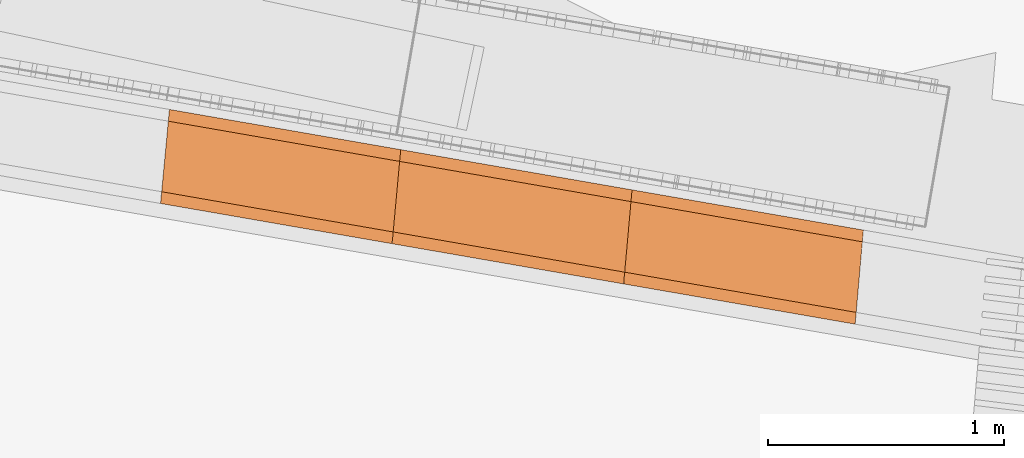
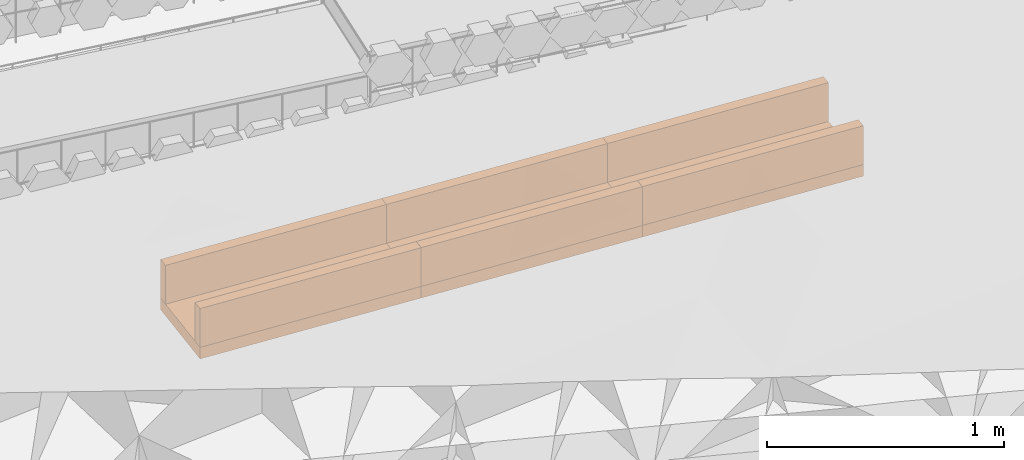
# Not in any storey, part 43 of 46: 9 proxies.
"""IFC4 model written with IfcOpenShell, lengths in metres."""

from ifc_helpers import new_model, si_unit, direction, frame, origin_with_axes, place, context, subcontext, project, spatial, polygons, material, element, save


model = new_model("IFC4")

# Units and contexts
model_context = context("Model", 3, precision=1e-05, world=origin_with_axes(), true_north=direction((0.0, 1.0)))
body_context = subcontext(model_context, "Body", "Model", "MODEL_VIEW")
ifc_project = project(units=[si_unit("VOLUMEUNIT", "CUBIC_METRE"), si_unit("LENGTHUNIT", "METRE"), si_unit("AREAUNIT", "SQUARE_METRE")], contexts=[model_context])

# Site
site_placement = place(None, origin_with_axes())
site = spatial("IfcSite", under=ifc_project, at=site_placement, Name="Lares · Rua das Mercês · artigo 4771")

# Proxies
ifc_material = material(Name="Caleiras · betão", Category="concrete")
proxy_1_placement = place(site_placement, frame((0.0, 0.0, 0.0), z_axis=(0.0, 0.0, 1.0), x_axis=(1.0, -1.03767253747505e-17, 0.0)))
element("IfcBuildingElementProxy", 1, at=proxy_1_placement, inside=site, material=ifc_material, Name="Acesso · canal lateral", ObjectType="Acesso · canal lateral", PredefinedType="USERDEFINED", context=body_context, shape_type="Tessellation", body=[
    polygons([(79.2974734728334, 6.31582085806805, 15.5703670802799), (79.3349189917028, 6.71406429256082, 15.5703670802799), (80.3149523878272, 6.5437610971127, 15.6448251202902), (80.2775068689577, 6.14551766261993, 15.6448251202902), (79.2974734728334, 6.31582085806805, 15.6303670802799), (79.3349189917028, 6.71406429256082, 15.6303670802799), (80.3149523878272, 6.5437610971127, 15.7048251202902), (80.2775068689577, 6.14551766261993, 15.7048251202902)], [[[4, 3, 2, 1]], [[5, 6, 7, 8]], [[1, 2, 6, 5]], [[2, 3, 7, 6]], [[3, 4, 8, 7]], [[4, 1, 5, 8]]]),
])
proxy_2_placement = place(site_placement, frame((0.0, 0.0, 0.0), z_axis=(0.0, 0.0, 1.0), x_axis=(1.0, -1.03767253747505e-17, 0.0)))
element("IfcBuildingElementProxy", 2, at=proxy_2_placement, inside=site, material=ifc_material, Name="Acesso · canal lateral", ObjectType="Acesso · canal lateral", PredefinedType="USERDEFINED", context=body_context, shape_type="Tessellation", body=[
    polygons([(79.2974734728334, 6.31582085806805, 15.6303670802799), (79.3021541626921, 6.36560128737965, 15.6303670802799), (80.2821875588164, 6.19529809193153, 15.7048251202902), (80.2775068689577, 6.14551766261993, 15.7048251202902), (79.2974734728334, 6.31582085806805, 15.8303670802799), (79.3021541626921, 6.36560128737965, 15.8303670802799), (80.2821875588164, 6.19529809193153, 15.9048251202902), (80.2775068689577, 6.14551766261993, 15.9048251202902)], [[[4, 3, 2, 1]], [[5, 6, 7, 8]], [[1, 2, 6, 5]], [[2, 3, 7, 6]], [[3, 4, 8, 7]], [[4, 1, 5, 8]]]),
])
proxy_3_placement = place(site_placement, frame((0.0, 0.0, 0.0), z_axis=(0.0, 0.0, 1.0), x_axis=(1.0, -1.03767253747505e-17, 0.0)))
element("IfcBuildingElementProxy", 3, at=proxy_3_placement, inside=site, material=ifc_material, Name="Acesso · canal lateral", ObjectType="Acesso · canal lateral", PredefinedType="USERDEFINED", context=body_context, shape_type="Tessellation", body=[
    polygons([(79.3302383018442, 6.66428386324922, 15.6303670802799), (79.3349189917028, 6.71406429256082, 15.6303670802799), (80.3149523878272, 6.5437610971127, 15.7048251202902), (80.3102716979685, 6.49398066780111, 15.7048251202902), (79.3302383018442, 6.66428386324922, 15.8303670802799), (79.3349189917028, 6.71406429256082, 15.8303670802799), (80.3149523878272, 6.5437610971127, 15.9048251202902), (80.3102716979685, 6.49398066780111, 15.9048251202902)], [[[4, 3, 2, 1]], [[5, 6, 7, 8]], [[1, 2, 6, 5]], [[2, 3, 7, 6]], [[3, 4, 8, 7]], [[4, 1, 5, 8]]]),
])
proxy_4_placement = place(site_placement, frame((0.0, 0.0, 0.0), z_axis=(0.0, 0.0, 1.0), x_axis=(1.0, -1.03767253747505e-17, 0.0)))
element("IfcBuildingElementProxy", 4, at=proxy_4_placement, inside=site, material=ifc_material, Name="Acesso · canal lateral", ObjectType="Acesso · canal lateral", PredefinedType="USERDEFINED", context=body_context, shape_type="Tessellation", body=[
    polygons([(80.2780501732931, 6.14546732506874, 15.6448251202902), (80.3144090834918, 6.5438114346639, 15.6448251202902), (81.2944163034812, 6.37350871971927, 15.7192831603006), (81.2580573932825, 5.97516461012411, 15.7192831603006), (80.2780501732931, 6.14546732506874, 15.7048251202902), (80.3144090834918, 6.5438114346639, 15.7048251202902), (81.2944163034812, 6.37350871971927, 15.7792831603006), (81.2580573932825, 5.97516461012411, 15.7792831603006)], [[[4, 3, 2, 1]], [[5, 6, 7, 8]], [[1, 2, 6, 5]], [[2, 3, 7, 6]], [[3, 4, 8, 7]], [[4, 1, 5, 8]]]),
])
proxy_5_placement = place(site_placement, frame((0.0, 0.0, 0.0), z_axis=(0.0, 0.0, 1.0), x_axis=(1.0, -1.03767253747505e-17, 0.0)))
element("IfcBuildingElementProxy", 5, at=proxy_5_placement, inside=site, material=ifc_material, Name="Acesso · canal lateral", ObjectType="Acesso · canal lateral", PredefinedType="USERDEFINED", context=body_context, shape_type="Tessellation", body=[
    polygons([(80.2780501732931, 6.14546732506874, 15.7048251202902), (80.2825950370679, 6.19526033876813, 15.7048251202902), (81.2626022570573, 6.0249576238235, 15.7792831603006), (81.2580573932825, 5.97516461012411, 15.7792831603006), (80.2780501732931, 6.14546732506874, 15.9048251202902), (80.2825950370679, 6.19526033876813, 15.9048251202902), (81.2626022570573, 6.0249576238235, 15.9792831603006), (81.2580573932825, 5.97516461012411, 15.9792831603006)], [[[4, 3, 2, 1]], [[5, 6, 7, 8]], [[1, 2, 6, 5]], [[2, 3, 7, 6]], [[3, 4, 8, 7]], [[4, 1, 5, 8]]]),
])
proxy_6_placement = place(site_placement, frame((0.0, 0.0, 0.0), z_axis=(0.0, 0.0, 1.0), x_axis=(1.0, -1.03767253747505e-17, 0.0)))
element("IfcBuildingElementProxy", 6, at=proxy_6_placement, inside=site, material=ifc_material, Name="Acesso · canal lateral", ObjectType="Acesso · canal lateral", PredefinedType="USERDEFINED", context=body_context, shape_type="Tessellation", body=[
    polygons([(80.309864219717, 6.4940184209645, 15.7048251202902), (80.3144090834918, 6.5438114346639, 15.7048251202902), (81.2944163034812, 6.37350871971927, 15.7792831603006), (81.2898714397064, 6.32371570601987, 15.7792831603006), (80.309864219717, 6.4940184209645, 15.9048251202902), (80.3144090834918, 6.5438114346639, 15.9048251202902), (81.2944163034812, 6.37350871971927, 15.9792831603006), (81.2898714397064, 6.32371570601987, 15.9792831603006)], [[[4, 3, 2, 1]], [[5, 6, 7, 8]], [[1, 2, 6, 5]], [[2, 3, 7, 6]], [[3, 4, 8, 7]], [[4, 1, 5, 8]]]),
])
proxy_7_placement = place(site_placement, frame((0.0, 0.0, 0.0), z_axis=(0.0, 0.0, 1.0), x_axis=(1.0, -1.03767253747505e-17, 0.0)))
element("IfcBuildingElementProxy", 7, at=proxy_7_placement, inside=site, material=ifc_material, Name="Acesso · canal lateral", ObjectType="Acesso · canal lateral", PredefinedType="USERDEFINED", context=body_context, shape_type="Tessellation", body=[
    polygons([(81.2586213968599, 5.97511393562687, 15.7192831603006), (81.2938522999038, 6.37355939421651, 15.7192831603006), (82.2738318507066, 6.20325707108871, 15.793741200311), (82.2386009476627, 5.80481161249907, 15.793741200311), (81.2586213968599, 5.97511393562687, 15.7792831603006), (81.2938522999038, 6.37355939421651, 15.7792831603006), (82.2738318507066, 6.20325707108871, 15.853741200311), (82.2386009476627, 5.80481161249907, 15.853741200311)], [[[4, 3, 2, 1]], [[5, 6, 7, 8]], [[1, 2, 6, 5]], [[2, 3, 7, 6]], [[3, 4, 8, 7]], [[4, 1, 5, 8]]]),
])
proxy_8_placement = place(site_placement, frame((0.0, 0.0, 0.0), z_axis=(0.0, 0.0, 1.0), x_axis=(1.0, -1.03767253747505e-17, 0.0)))
element("IfcBuildingElementProxy", 8, at=proxy_8_placement, inside=site, material=ifc_material, Name="Acesso · canal lateral", ObjectType="Acesso · canal lateral", PredefinedType="USERDEFINED", context=body_context, shape_type="Tessellation", body=[
    polygons([(81.2586213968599, 5.97511393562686, 15.7792831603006), (81.2630252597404, 6.02491961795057, 15.7792831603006), (82.2430048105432, 5.85461729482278, 15.853741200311), (82.2386009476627, 5.80481161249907, 15.853741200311), (81.2586213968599, 5.97511393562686, 15.9792831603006), (81.2630252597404, 6.02491961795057, 15.9792831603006), (82.2430048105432, 5.85461729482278, 16.053741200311), (82.2386009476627, 5.80481161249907, 16.053741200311)], [[[4, 3, 2, 1]], [[5, 6, 7, 8]], [[1, 2, 6, 5]], [[2, 3, 7, 6]], [[3, 4, 8, 7]], [[4, 1, 5, 8]]]),
])
proxy_9_placement = place(site_placement, frame((0.0, 0.0, 0.0), z_axis=(0.0, 0.0, 1.0), x_axis=(1.0, -1.03767253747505e-17, 0.0)))
element("IfcBuildingElementProxy", 9, at=proxy_9_placement, inside=site, material=ifc_material, Name="Acesso · canal lateral", ObjectType="Acesso · canal lateral", PredefinedType="USERDEFINED", context=body_context, shape_type="Tessellation", body=[
    polygons([(81.2894484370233, 6.3237537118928, 15.7792831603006), (81.2938522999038, 6.37355939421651, 15.7792831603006), (82.2738318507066, 6.20325707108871, 15.853741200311), (82.2694279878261, 6.15345138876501, 15.853741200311), (81.2894484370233, 6.3237537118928, 15.9792831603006), (81.2938522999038, 6.37355939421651, 15.9792831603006), (82.2738318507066, 6.20325707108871, 16.053741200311), (82.2694279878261, 6.15345138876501, 16.053741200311)], [[[4, 3, 2, 1]], [[5, 6, 7, 8]], [[1, 2, 6, 5]], [[2, 3, 7, 6]], [[3, 4, 8, 7]], [[4, 1, 5, 8]]]),
])

save(model, "model.ifc")
